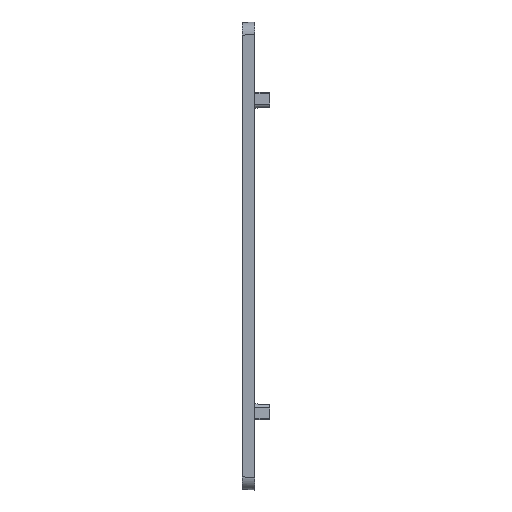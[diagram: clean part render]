
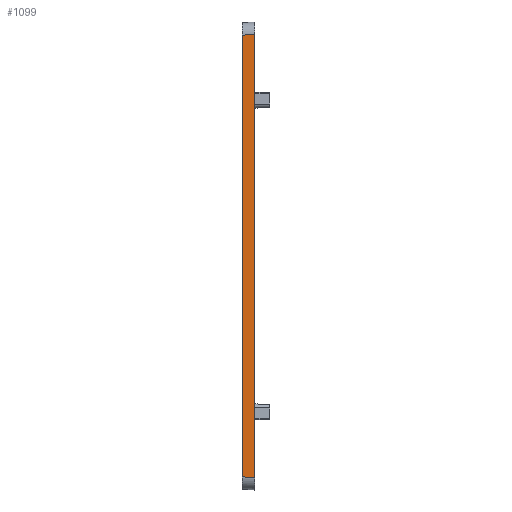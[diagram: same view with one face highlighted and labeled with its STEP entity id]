
A CAD part, left-side view. The second image highlights one B-rep face of the part: STEP entity #1099.
In plain terms, the highlighted planar face has unit normal (-0.999, 0.052, 0).
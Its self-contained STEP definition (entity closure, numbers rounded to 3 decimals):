
#59 = VECTOR ( 'NONE', #930, 1000. ) ;
#359 = ORIENTED_EDGE ( 'NONE', *, *, #4153, .T. ) ;
#618 = VERTEX_POINT ( 'NONE', #5864 ) ;
#930 = DIRECTION ( 'NONE',  ( 0.052, 0.997, -0.052 ) ) ;
#932 = DIRECTION ( 'NONE',  ( -0.999, 0.052, 0. ) ) ;
#1048 = DIRECTION ( 'NONE',  ( -0.052, -0.999, 0. ) ) ;
#1099 = ADVANCED_FACE ( 'NONE', ( #4087 ), #4003, .T. ) ;
#1250 = VECTOR ( 'NONE', #1587, 1000. ) ;
#1427 = LINE ( 'NONE', #4361, #7184 ) ;
#1587 = DIRECTION ( 'NONE',  ( 0., 0., 1. ) ) ;
#1853 = LINE ( 'NONE', #2044, #5007 ) ;
#1961 = CARTESIAN_POINT ( 'NONE',  ( -56.093, 3., -53.097 ) ) ;
#2044 = CARTESIAN_POINT ( 'NONE',  ( -56.22, 0.574, -53.224 ) ) ;
#2314 = CARTESIAN_POINT ( 'NONE',  ( -55.989, 4.978, 52.993 ) ) ;
#2625 = ORIENTED_EDGE ( 'NONE', *, *, #5383, .F. ) ;
#2927 = LINE ( 'NONE', #5388, #1250 ) ;
#3228 = VERTEX_POINT ( 'NONE', #1961 ) ;
#3352 = EDGE_CURVE ( 'NONE', #3228, #5096, #1853, .T. ) ;
#3485 = ORIENTED_EDGE ( 'NONE', *, *, #3352, .T. ) ;
#3621 = CARTESIAN_POINT ( 'NONE',  ( -56.25, 0., -53.254 ) ) ;
#3663 = ORIENTED_EDGE ( 'NONE', *, *, #4162, .T. ) ;
#4003 = PLANE ( 'NONE',  #6352 ) ;
#4087 = FACE_OUTER_BOUND ( 'NONE', #5802, .T. ) ;
#4153 = EDGE_CURVE ( 'NONE', #7855, #618, #7309, .T. ) ;
#4162 = EDGE_CURVE ( 'NONE', #5096, #7855, #2927, .T. ) ;
#4361 = CARTESIAN_POINT ( 'NONE',  ( -56.093, 3., 0. ) ) ;
#5007 = VECTOR ( 'NONE', #5252, 1000. ) ;
#5096 = VERTEX_POINT ( 'NONE', #3621 ) ;
#5252 = DIRECTION ( 'NONE',  ( -0.052, -0.997, -0.052 ) ) ;
#5383 = EDGE_CURVE ( 'NONE', #3228, #618, #1427, .T. ) ;
#5388 = CARTESIAN_POINT ( 'NONE',  ( -56.25, 0., -42.25 ) ) ;
#5430 = CARTESIAN_POINT ( 'NONE',  ( -56.25, 0., 53.254 ) ) ;
#5802 = EDGE_LOOP ( 'NONE', ( #2625, #3485, #3663, #359 ) ) ;
#5864 = CARTESIAN_POINT ( 'NONE',  ( -56.093, 3., 53.097 ) ) ;
#5999 = CARTESIAN_POINT ( 'NONE',  ( -56.25, 0., -42.25 ) ) ;
#6352 = AXIS2_PLACEMENT_3D ( 'NONE', #5999, #932, #1048 ) ;
#7184 = VECTOR ( 'NONE', #7880, 1000. ) ;
#7309 = LINE ( 'NONE', #2314, #59 ) ;
#7855 = VERTEX_POINT ( 'NONE', #5430 ) ;
#7880 = DIRECTION ( 'NONE',  ( 0., 0., 1. ) ) ;
